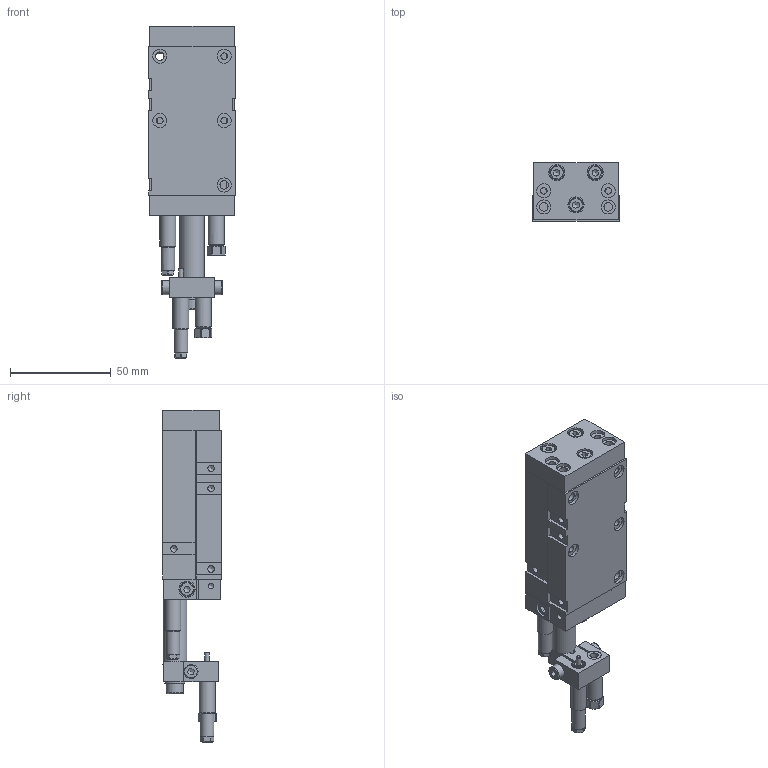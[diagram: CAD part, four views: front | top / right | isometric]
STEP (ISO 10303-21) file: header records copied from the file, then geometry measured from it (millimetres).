
FILE_DESCRIPTION(/* description */ (''),/* implementation_level */ '2;1');
FILE_NAME(/* name */ 'N:\Zeichnungen\Lineareinheiten\Lineareinheit LSK-4(1951)\Lineareinheit LSK-4_3d\Neutrale CAD-Formate\Lineareinheit LSK-4-HK-30-H-0-0-P.stp',/* time_stamp */ '2016-11-22T13:17:05+01:00',/* author */ ('gose'),/* organization */ (''),/* preprocessor_version */ 'ST-DEVELOPER v16.5',/* originating_system */ 'Autodesk Inventor 2017',/* authorisation */ '');
FILE_SCHEMA (('AUTOMOTIVE_DESIGN { 1 0 10303 214 3 1 1 }'));
Length unit declared in the file: millimetre
Products named in the file (3): Lineareinheit LSK-4-HK-30-H-0-0-P; Gehäuse komplett LSK-4-30-STI-H; Führungskopf komplett LSK-4-30-STI-H
Assembly tree (2 placements, depth 2):
  Lineareinheit LSK-4-HK-30-H-0-0-P
    Gehäuse komplett LSK-4-30-STI-H
    Führungskopf komplett LSK-4-30-STI-H
Bounding box: 43 x 29 x 165 mm (x, y, z)
Surface area: 63182.7 mm2 (no closed solid volume)
Topology: 0 solids, 44 shells, 965 faces, 2402 edges, 1577 vertices
Faces by surface type: plane 535, cylinder 262, cone 146, torus 22
Full cylindrical faces by diameter (mm): 1 x24, 1.05 x8, 1.4 x16, 1.5 x2, 1.8 x3, 2.3 x2, 2.459 x1, 2.7 x4, 2.8 x4, 3.242 x28, 3.9 x2, 4 x11, 4.134 x7, 4.2 x10, 4.3 x9, 4.5 x1, 5 x1, 5.2 x3, 5.3 x5, 5.714 x2, 6 x2, 6.8 x2, 7 x30, 8 x18, 8.04 x1, 8.5 x1, 9 x1, 9.1 x1, 10 x2, 10.35 x1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
Entity records: 26969 total; most frequent: CARTESIAN_POINT 5105, DIRECTION 4355, ORIENTED_EDGE 3774, EDGE_CURVE 1887, AXIS2_PLACEMENT_3D 1661, EDGE_LOOP 1530, VERTEX_POINT 1413, LINE 1033
